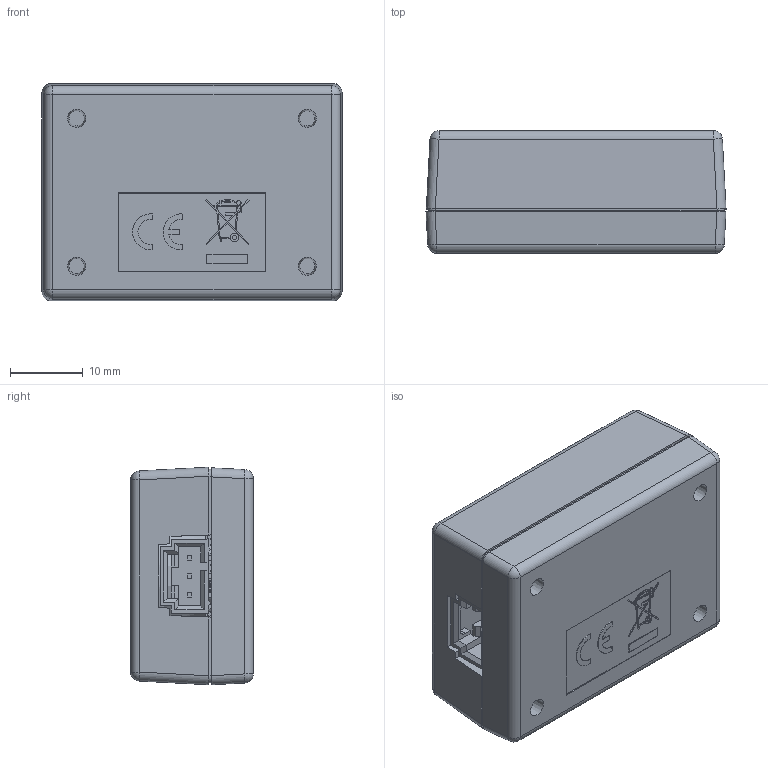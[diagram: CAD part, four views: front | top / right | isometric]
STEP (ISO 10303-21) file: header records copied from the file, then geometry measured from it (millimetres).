
FILE_DESCRIPTION(/* description */ ('Alibre Inc.'),/* implementation_level */ '2;1');
FILE_NAME(/* name */ 'export0',/* time_stamp */ '2018-08-09T12:39:04-06:00',/* author */ (''),/* organization */ (''),/* preprocessor_version */ 'ST-DEVELOPER v17',/* originating_system */ 'Alibre',/* authorisation */ '');
FILE_SCHEMA (('CONFIG_CONTROL_DESIGN'));
Length unit declared in the file: centimetre
Products named in the file (112): ID_1; ID_2; ID_3; ID_4; ID_5; ID_6; ID_7; ID_8; ID_9; ID_10; ID_11; ID_12; ID_13; ID_14; ID_15; ID_16; ID_17; ID_18; ID_19; ID_20; ID_21; ID_22; ID_23; ID_24; ID_25; ID_26; ID_27; ID_28; ID_29; ID_30; ID_31; ID_32; ID_33
Bounding box: 41.28 x 16.87 x 29.93 mm (x, y, z)
Volume: 9126.8 mm3; surface area: 13646.7 mm2
Topology: 170 solids, 170 shells, 2294 faces, 5715 edges, 3773 vertices
Faces by surface type: plane 2089, cylinder 152, bspline 31, cone 14, sphere 8
Full cylindrical faces by diameter (mm): 0.6 x1, 0.889 x2, 0.965 x3, 3.124 x4, 3.175 x4, 8.636 x1, 9.652 x1
Entity records: 42873 total; most frequent: CARTESIAN_POINT 7090, ORIENTED_EDGE 4622, DIRECTION 4198, EDGE_CURVE 2311, VECTOR 1916, LINE 1916, VERTEX_POINT 1525, AXIS2_PLACEMENT_3D 1480
